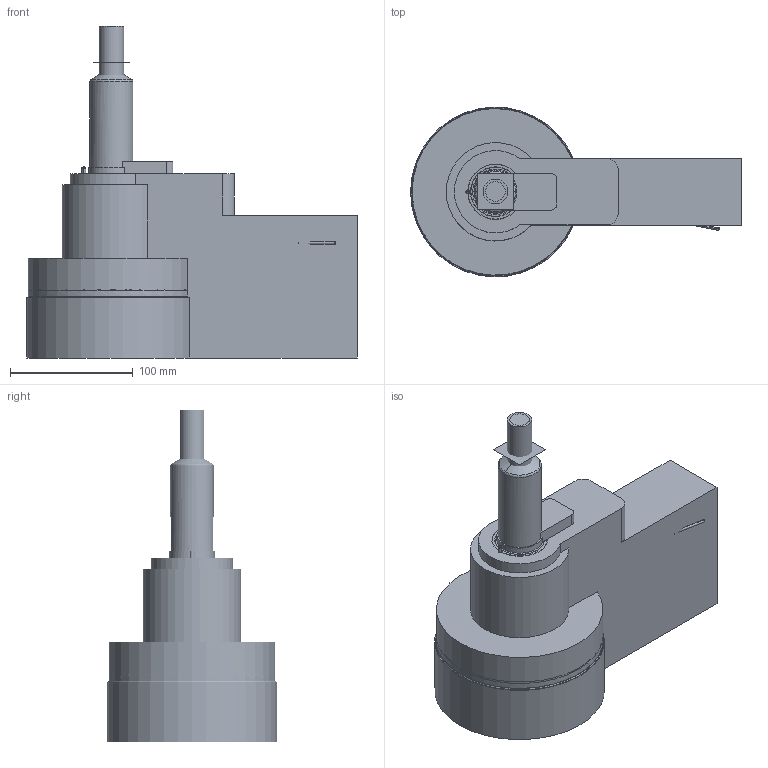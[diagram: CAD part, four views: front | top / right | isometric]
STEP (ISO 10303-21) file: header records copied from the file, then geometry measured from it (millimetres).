
FILE_DESCRIPTION (( 'STEP AP214' ), '1' );
FILE_NAME ('12SVH-06_VSP.STEP', '2021-06-28T06:08:21', ( '' ), ( '' ), 'SwSTEP 2.0', 'SolidWorks 2018', '' );
FILE_SCHEMA (( 'AUTOMOTIVE_DESIGN' ));
Length unit declared in the file: millimetre
Products named in the file (13): DIN912_M03x014; cutout_VSP; DIN912_M06x010; MB600-060_MB600-060; DIN6325_04m6x16; DIN912_M05x090; 12SVH-06_VSP; hyc2013s01_HYC2013s01; cable grounding_dummy_cable dround_dummy; nozzle_VSP; DIN915_M06x10; DIN912_M03x010; DIN912_M04x012
Assembly tree (19 placements, depth 3):
  12SVH-06_VSP
    hyc2013s01_HYC2013s01
      MB600-060_MB600-060
    DIN912_M05x090  x4
    DIN912_M03x014  x4
    DIN6325_04m6x16
    DIN912_M06x010  x2
    DIN912_M04x012
    DIN915_M06x10
    DIN912_M03x010
    cable grounding_dummy_cable dround_dummy
    nozzle_VSP
    cutout_VSP
Bounding box: 269 x 137.94 x 270 mm (x, y, z)
Volume: 2576723.4 mm3; surface area: 450026.2 mm2
Topology: 17 solids, 79 shells, 2949 faces, 7084 edges, 4360 vertices
Faces by surface type: cylinder 990, plane 893, cone 385, torus 336, bspline 306, sphere 39
Entity records: 129021 total; most frequent: CARTESIAN_POINT 62217, ORIENTED_EDGE 13472, DIRECTION 13208, EDGE_CURVE 6738, AXIS2_PLACEMENT_3D 5292, VERTEX_POINT 4191, EDGE_LOOP 3166, ADVANCED_FACE 2823
